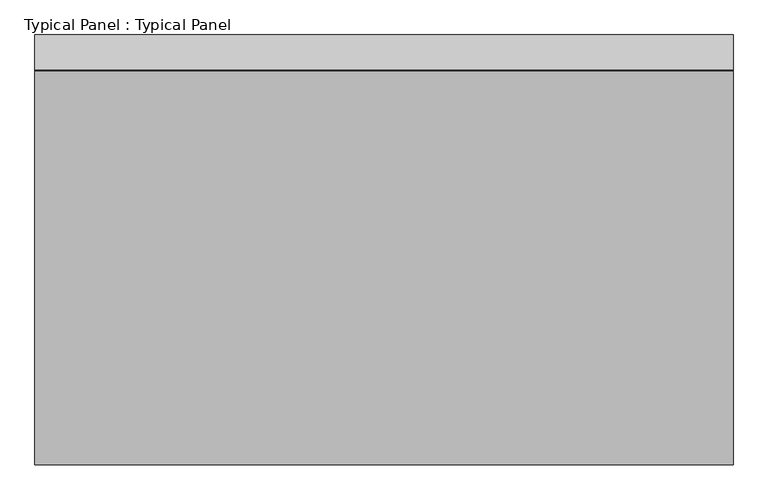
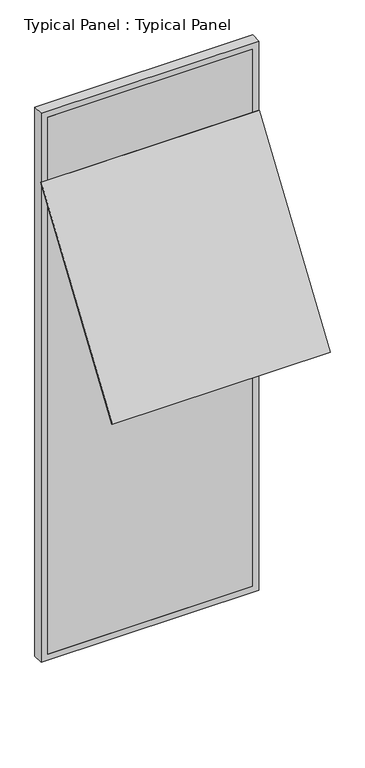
"""IFC4 building model written with IfcOpenShell, lengths in millimetres: plate geometry, Typical Panel : Typical Panel."""

from ifc_helpers import new_model, si_unit, frame, origin, place, context, project, spatial, polyline, outline, extrude, source, transform, mapped, element, save


def typical_panel_typical_panel_3a207b21(model_context):
    return source(origin(), model_context, "Body", "SweptSolid", [
        extrude(outline(polyline([(0.0, -10.0), (0.0, 0.0), (1500.0, 0.0), (1500.0, -10.0), (0.0, -10.0)])), frame((750.0, -849.3812842, 2248.1532654), z_axis=(0.0, 0.5591929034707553, 0.829037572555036), x_axis=(-1.0, 0.0, 0.0)), (0.0, 0.0, 1.0), 1510.0),
        extrude(outline(polyline([(0.0, -750.0), (0.0, 750.0), (4000.0, 750.0), (4000.0, -750.0), (0.0, -750.0)]), holes=[polyline([(45.0, 705.0), (45.0, -705.0), (3955.0, -705.0), (3955.0, 705.0), (45.0, 705.0)])]), frame((0.0, -1.5797986, 0.0), z_axis=(0.0, 1.0, 0.0), x_axis=(0.0, 0.0, 1.0)), (0.0, 0.0, 1.0), 75.0),
        extrude(outline(polyline([(705.0, -1.5797986), (-705.0, -1.5797986), (-705.0, 13.4202014), (705.0, 13.4202014), (705.0, -1.5797986)])), frame((0.0, 0.0, 45.0), z_axis=(0.0, 0.0, 1.0), x_axis=(1.0, 0.0, 0.0)), (0.0, 0.0, 1.0), 3910.0),
    ])


if __name__ == "__main__":
    model = new_model("IFC4")
    model_context = context("Model", 3, world=origin())
    ifc_project = project(units=[si_unit("LENGTHUNIT", "METRE", prefix="MILLI")], contexts=[model_context])
    site = spatial("IfcSite", under=ifc_project)
    building = spatial("IfcBuilding", under=site)
    placement = place(None, origin())
    typical_panel_typical_panel_shape = typical_panel_typical_panel_3a207b21(model_context)
    element("IfcPlate", 1, ObjectType="Typical Panel : Typical Panel", at=placement, inside=building, context=model_context, shape_type="MappedRepresentation", body=[
        mapped(typical_panel_typical_panel_shape, transform((0.0, 0.0, 0.0), x_axis=(1.0, 0.0, 0.0), y_axis=(0.0, 1.0, 0.0), z_axis=(0.0, 0.0, 1.0))),
    ])
    save(model, "model.ifc")
